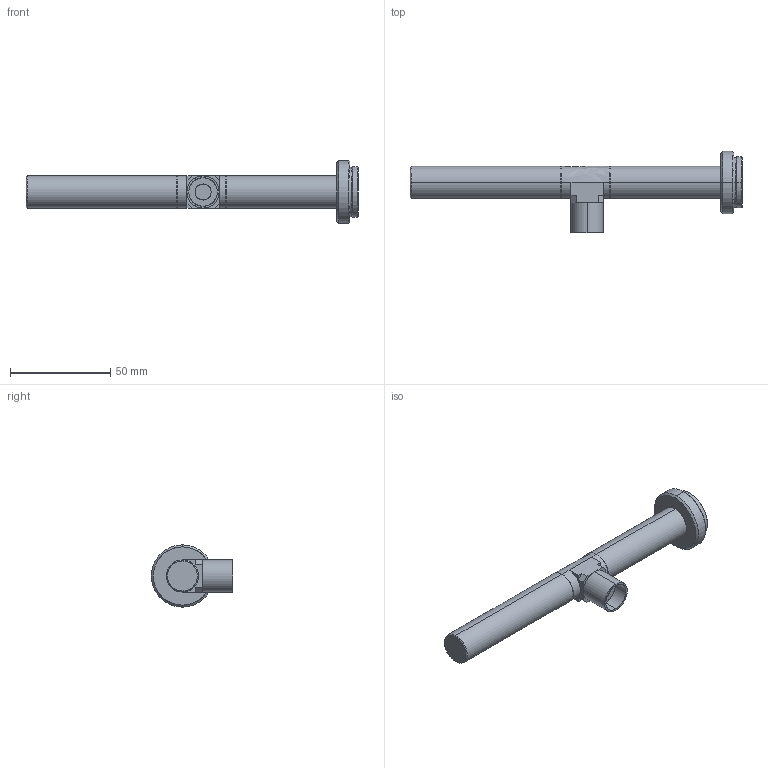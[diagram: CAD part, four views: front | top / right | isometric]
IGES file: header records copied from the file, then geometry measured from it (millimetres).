
Start section: SolidWorks IGES file using analytic representation for surfaces
Bounding box: 165.38 x 40.5 x 31 mm (x, y, z)
Surface area: 11725 mm2 (no closed solid volume)
Topology: 0 solids, 0 shells, 60 faces, 708 edges, 708 vertices
Faces by surface type: revolution 37, bspline 23
